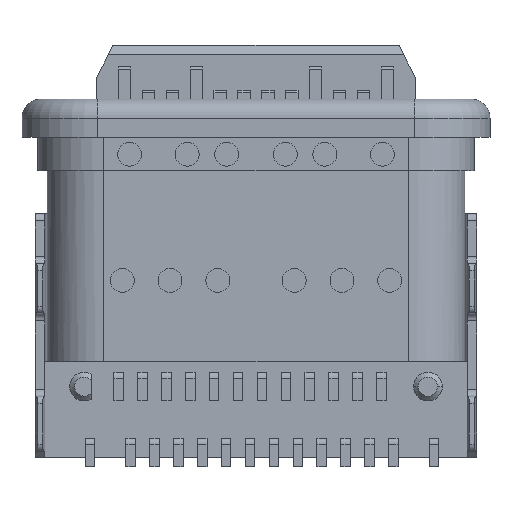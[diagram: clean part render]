
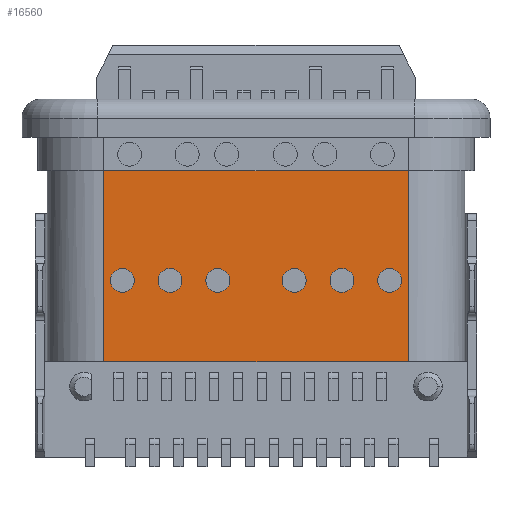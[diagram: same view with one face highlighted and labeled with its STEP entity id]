
A CAD part, front view. The second image highlights one B-rep face of the part: STEP entity #16560.
In plain terms, the highlighted planar face has unit normal (0, -1, 0).
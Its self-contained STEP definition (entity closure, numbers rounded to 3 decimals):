
#14=DIRECTION('',(0.,0.,1.));
#15=VECTOR('',#14,4.);
#16=CARTESIAN_POINT('',(-69.205,-3.531,-47.923));
#17=LINE('',#16,#15);
#3686=DIRECTION('',(0.,0.,1.));
#3687=VECTOR('',#3686,4.);
#3688=CARTESIAN_POINT('',(-75.585,-3.531,
-47.923));
#3689=LINE('',#3688,#3687);
#3690=DIRECTION('',(1.,0.,0.));
#3691=VECTOR('',#3690,6.38);
#3692=CARTESIAN_POINT('',(-75.585,-3.531,
-43.923));
#3693=LINE('',#3692,#3691);
#3694=DIRECTION('',(-1.,0.,0.));
#3695=VECTOR('',#3694,6.38);
#3696=CARTESIAN_POINT('',(-69.205,-3.531,
-47.923));
#3697=LINE('',#3696,#3695);
#3698=CARTESIAN_POINT('',(-73.195,-3.531,
-46.22));
#3699=DIRECTION('',(0.,-1.,0.));
#3700=DIRECTION('',(1.,0.,0.));
#3701=AXIS2_PLACEMENT_3D('',#3698,#3699,#3700);
#3703=CARTESIAN_POINT('',(-73.195,-3.531,
-46.22));
#3704=DIRECTION('',(0.,-1.,0.));
#3705=DIRECTION('',(-1.,0.,0.));
#3706=AXIS2_PLACEMENT_3D('',#3703,#3704,#3705);
#3708=CARTESIAN_POINT('',(-74.195,-3.531,
-46.22));
#3709=DIRECTION('',(0.,-1.,0.));
#3710=DIRECTION('',(1.,0.,0.));
#3711=AXIS2_PLACEMENT_3D('',#3708,#3709,#3710);
#3713=CARTESIAN_POINT('',(-74.195,-3.531,
-46.22));
#3714=DIRECTION('',(0.,-1.,0.));
#3715=DIRECTION('',(-1.,0.,0.));
#3716=AXIS2_PLACEMENT_3D('',#3713,#3714,#3715);
#3718=CARTESIAN_POINT('',(-75.195,-3.531,
-46.22));
#3719=DIRECTION('',(0.,-1.,0.));
#3720=DIRECTION('',(1.,0.,0.));
#3721=AXIS2_PLACEMENT_3D('',#3718,#3719,#3720);
#3723=CARTESIAN_POINT('',(-75.195,-3.531,
-46.22));
#3724=DIRECTION('',(0.,-1.,0.));
#3725=DIRECTION('',(-1.,0.,0.));
#3726=AXIS2_PLACEMENT_3D('',#3723,#3724,#3725);
#3728=CARTESIAN_POINT('',(-71.595,-3.531,
-46.22));
#3729=DIRECTION('',(0.,-1.,0.));
#3730=DIRECTION('',(1.,0.,0.));
#3731=AXIS2_PLACEMENT_3D('',#3728,#3729,#3730);
#3733=CARTESIAN_POINT('',(-71.595,-3.531,
-46.22));
#3734=DIRECTION('',(0.,-1.,0.));
#3735=DIRECTION('',(-1.,0.,0.));
#3736=AXIS2_PLACEMENT_3D('',#3733,#3734,#3735);
#3738=CARTESIAN_POINT('',(-70.595,-3.531,
-46.22));
#3739=DIRECTION('',(0.,-1.,0.));
#3740=DIRECTION('',(1.,0.,0.));
#3741=AXIS2_PLACEMENT_3D('',#3738,#3739,#3740);
#3743=CARTESIAN_POINT('',(-70.595,-3.531,
-46.22));
#3744=DIRECTION('',(0.,-1.,0.));
#3745=DIRECTION('',(-1.,0.,0.));
#3746=AXIS2_PLACEMENT_3D('',#3743,#3744,#3745);
#3748=CARTESIAN_POINT('',(-69.595,-3.531,
-46.22));
#3749=DIRECTION('',(0.,-1.,0.));
#3750=DIRECTION('',(1.,0.,0.));
#3751=AXIS2_PLACEMENT_3D('',#3748,#3749,#3750);
#3753=CARTESIAN_POINT('',(-69.595,-3.531,
-46.22));
#3754=DIRECTION('',(0.,-1.,0.));
#3755=DIRECTION('',(-1.,0.,0.));
#3756=AXIS2_PLACEMENT_3D('',#3753,#3754,#3755);
#9362=CARTESIAN_POINT('',(-75.585,-3.531,
-43.923));
#9363=VERTEX_POINT('',#9362);
#9364=CARTESIAN_POINT('',(-69.205,-3.531,
-43.923));
#9365=VERTEX_POINT('',#9364);
#9762=CARTESIAN_POINT('',(-69.205,-3.531,
-47.923));
#9763=VERTEX_POINT('',#9762);
#9768=CARTESIAN_POINT('',(-75.585,-3.531,
-47.923));
#9769=VERTEX_POINT('',#9768);
#9866=CARTESIAN_POINT('',(-72.945,-3.531,
-46.22));
#9867=CARTESIAN_POINT('',(-73.445,-3.531,
-46.22));
#9868=VERTEX_POINT('',#9866);
#9869=VERTEX_POINT('',#9867);
#9870=CARTESIAN_POINT('',(-73.945,-3.531,
-46.22));
#9871=CARTESIAN_POINT('',(-74.445,-3.531,
-46.22));
#9872=VERTEX_POINT('',#9870);
#9873=VERTEX_POINT('',#9871);
#9874=CARTESIAN_POINT('',(-74.945,-3.531,
-46.22));
#9875=CARTESIAN_POINT('',(-75.445,-3.531,
-46.22));
#9876=VERTEX_POINT('',#9874);
#9877=VERTEX_POINT('',#9875);
#9878=CARTESIAN_POINT('',(-71.345,-3.531,
-46.22));
#9879=CARTESIAN_POINT('',(-71.845,-3.531,
-46.22));
#9880=VERTEX_POINT('',#9878);
#9881=VERTEX_POINT('',#9879);
#9882=CARTESIAN_POINT('',(-70.345,-3.531,
-46.22));
#9883=CARTESIAN_POINT('',(-70.845,-3.531,
-46.22));
#9884=VERTEX_POINT('',#9882);
#9885=VERTEX_POINT('',#9883);
#9886=CARTESIAN_POINT('',(-69.345,-3.531,
-46.22));
#9887=CARTESIAN_POINT('',(-69.845,-3.531,
-46.22));
#9888=VERTEX_POINT('',#9886);
#9889=VERTEX_POINT('',#9887);
#16513=CARTESIAN_POINT('',(-69.205,-3.531,
-42.423));
#16514=DIRECTION('',(0.,1.,0.));
#16515=DIRECTION('',(-1.,0.,0.));
#16516=AXIS2_PLACEMENT_3D('',#16513,#16514,#16515);
#16517=PLANE('',#16516);
#16518=ORIENTED_EDGE('',*,*,#16080,.T.);
#16519=ORIENTED_EDGE('',*,*,#16143,.T.);
#16520=ORIENTED_EDGE('',*,*,#11543,.F.);
#16521=ORIENTED_EDGE('',*,*,#16064,.T.);
#16522=EDGE_LOOP('',(#16518,#16519,#16520,#16521));
#16523=FACE_OUTER_BOUND('',#16522,.F.);
#16525=ORIENTED_EDGE('',*,*,#16524,.T.);
#16527=ORIENTED_EDGE('',*,*,#16526,.T.);
#16528=EDGE_LOOP('',(#16525,#16527));
#16529=FACE_BOUND('',#16528,.F.);
#16531=ORIENTED_EDGE('',*,*,#16530,.T.);
#16533=ORIENTED_EDGE('',*,*,#16532,.T.);
#16534=EDGE_LOOP('',(#16531,#16533));
#16535=FACE_BOUND('',#16534,.F.);
#16537=ORIENTED_EDGE('',*,*,#16536,.T.);
#16539=ORIENTED_EDGE('',*,*,#16538,.T.);
#16540=EDGE_LOOP('',(#16537,#16539));
#16541=FACE_BOUND('',#16540,.F.);
#16543=ORIENTED_EDGE('',*,*,#16542,.T.);
#16545=ORIENTED_EDGE('',*,*,#16544,.T.);
#16546=EDGE_LOOP('',(#16543,#16545));
#16547=FACE_BOUND('',#16546,.F.);
#16549=ORIENTED_EDGE('',*,*,#16548,.T.);
#16551=ORIENTED_EDGE('',*,*,#16550,.T.);
#16552=EDGE_LOOP('',(#16549,#16551));
#16553=FACE_BOUND('',#16552,.F.);
#16555=ORIENTED_EDGE('',*,*,#16554,.T.);
#16557=ORIENTED_EDGE('',*,*,#16556,.T.);
#16558=EDGE_LOOP('',(#16555,#16557));
#16559=FACE_BOUND('',#16558,.F.);
#3702=CIRCLE('',#3701,0.25);
#3707=CIRCLE('',#3706,0.25);
#3712=CIRCLE('',#3711,0.25);
#3717=CIRCLE('',#3716,0.25);
#3722=CIRCLE('',#3721,0.25);
#3727=CIRCLE('',#3726,0.25);
#3732=CIRCLE('',#3731,0.25);
#3737=CIRCLE('',#3736,0.25);
#3742=CIRCLE('',#3741,0.25);
#3747=CIRCLE('',#3746,0.25);
#3752=CIRCLE('',#3751,0.25);
#3757=CIRCLE('',#3756,0.25);
#11543=EDGE_CURVE('',#9763,#9365,#17,.T.);
#16064=EDGE_CURVE('',#9763,#9769,#3697,.T.);
#16080=EDGE_CURVE('',#9769,#9363,#3689,.T.);
#16143=EDGE_CURVE('',#9363,#9365,#3693,.T.);
#16524=EDGE_CURVE('',#9868,#9869,#3702,.T.);
#16526=EDGE_CURVE('',#9869,#9868,#3707,.T.);
#16530=EDGE_CURVE('',#9872,#9873,#3712,.T.);
#16532=EDGE_CURVE('',#9873,#9872,#3717,.T.);
#16536=EDGE_CURVE('',#9876,#9877,#3722,.T.);
#16538=EDGE_CURVE('',#9877,#9876,#3727,.T.);
#16542=EDGE_CURVE('',#9880,#9881,#3732,.T.);
#16544=EDGE_CURVE('',#9881,#9880,#3737,.T.);
#16548=EDGE_CURVE('',#9884,#9885,#3742,.T.);
#16550=EDGE_CURVE('',#9885,#9884,#3747,.T.);
#16554=EDGE_CURVE('',#9888,#9889,#3752,.T.);
#16556=EDGE_CURVE('',#9889,#9888,#3757,.T.);
#16560=ADVANCED_FACE('',(#16523,#16529,#16535,#16541,#16547,#16553,#16559),
#16517,.F.);
